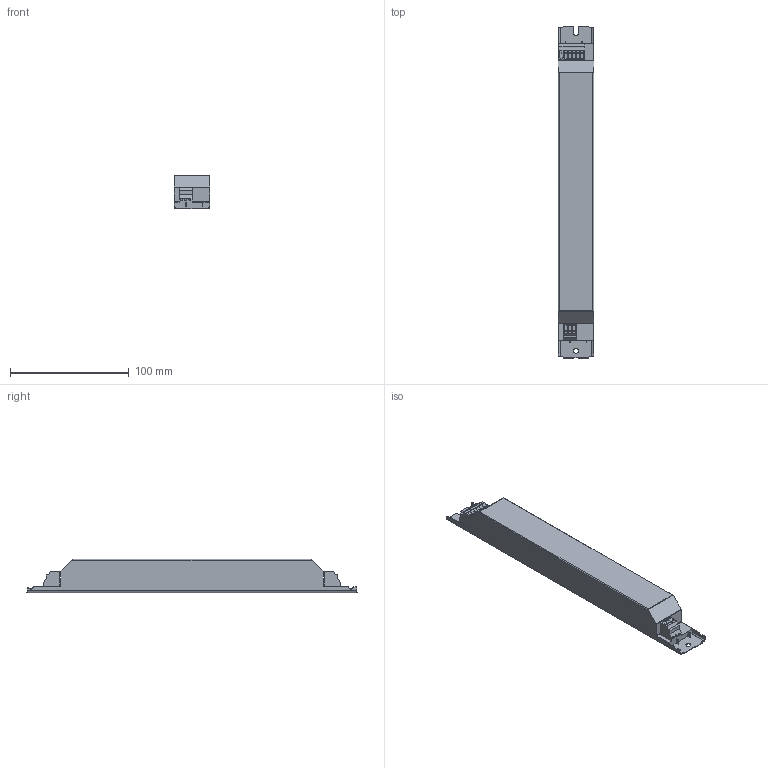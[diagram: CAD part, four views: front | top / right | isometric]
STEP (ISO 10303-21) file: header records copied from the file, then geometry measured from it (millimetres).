
FILE_DESCRIPTION((''),'2;1');
FILE_NAME('15007367Z','2012-12-10T',('juergen.hrach'),(''),'PRO/ENGINEER BY PARAMETRIC TECHNOLOGY CORPORATION, 2011310','PRO/ENGINEER BY PARAMETRIC TECHNOLOGY CORPORATION, 2011310','');
FILE_SCHEMA(('AUTOMOTIVE_DESIGN { 1 2 10303 214 0 1 1 1 }'));
Length unit declared in the file: millimetre
Products named in the file (1): 15007367Z
Bounding box: 30 x 280 x 28 mm (x, y, z)
Volume: 192471.8 mm3; surface area: 31938.5 mm2
Topology: 1 solids, 1 shells, 276 faces, 815 edges, 542 vertices
Faces by surface type: plane 195, cylinder 81
Entity records: 12107 total; most frequent: CARTESIAN_POINT 1729, ORIENTED_EDGE 1630, DIRECTION 1499, PRESENTATION_STYLE_ASSIGNMENT 843, STYLED_ITEM 816, CURVE_STYLE 815, EDGE_CURVE 815, VECTOR 631
